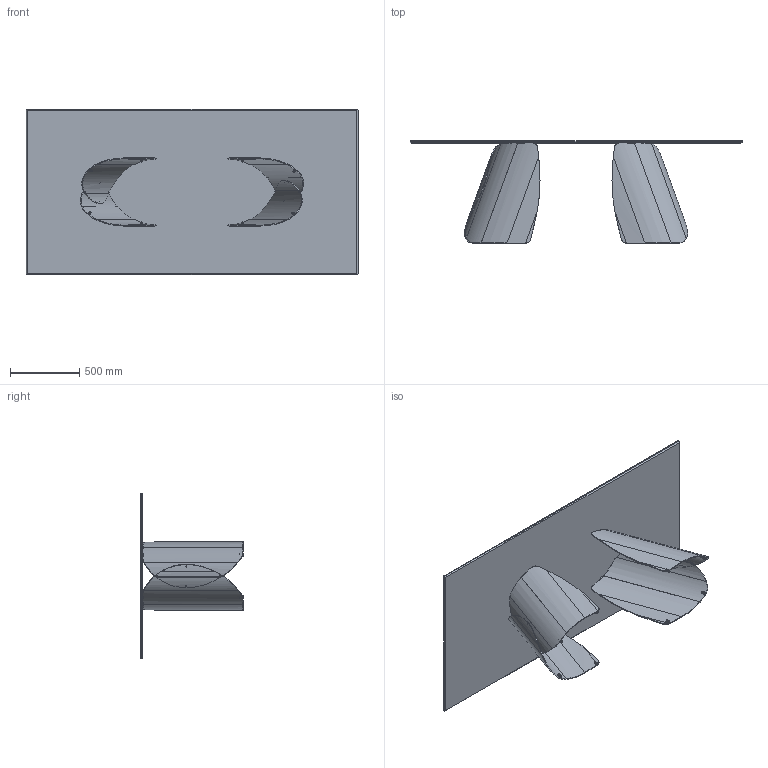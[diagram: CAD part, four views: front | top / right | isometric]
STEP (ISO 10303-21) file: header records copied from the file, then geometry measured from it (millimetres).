
FILE_DESCRIPTION (( 'STEP AP203' ), '1' );
FILE_NAME ('PA22C_Perla 239x119_Ceramic Rectangular.STEP', '2024-07-31T12:39:08', ( '' ), ( '' ), 'SwSTEP 2.0', 'SolidWorks 2022', '' );
FILE_SCHEMA (( 'CONFIG_CONTROL_DESIGN' ));
Length unit declared in the file: millimetre
Products named in the file (9): PER000000-00-PERLA BASE GREZZA; profilo U 9x7 bombato_L = 60mm; PER000000_03-00-PERLA BUSSOLA PER PIEDE; PA22C_Perla 239x119_Ceramic Rectangular; PER000000_02-00-PERLA LAMIERA INTERNA; COLLO BASE PERLA PER000000 CON FERRAMENTA; PER000000_01-00-PERLA LAMIERA ESTERNA; PIEDINO D.15 x H.8_filetto M6x11; K2XCMXX-00-Piani Rettangolari in ceramica_2390 x 1190
Assembly tree (16 placements, depth 4):
  PA22C_Perla 239x119_Ceramic Rectangular
    COLLO BASE PERLA PER000000 CON FERRAMENTA  x2
      PER000000-00-PERLA BASE GREZZA
        PER000000_01-00-PERLA LAMIERA ESTERNA
        PER000000_02-00-PERLA LAMIERA INTERNA
        PER000000_03-00-PERLA BUSSOLA PER PIEDE  x4
      PIEDINO D.15 x H.8_filetto M6x11
      profilo U 9x7 bombato_L = 60mm
    K2XCMXX-00-Piani Rettangolari in ceramica_2390 x 1190
Bounding box: 2390 x 737.5 x 1190 mm (x, y, z)
Volume: 55255926 mm3; surface area: 14854901.9 mm2
Topology: 34 solids, 34 shells, 490 faces, 1090 edges, 668 vertices
Faces by surface type: cylinder 164, bspline 130, plane 116, cone 48, torus 32
Entity records: 12664 total; most frequent: CARTESIAN_POINT 8269, ORIENTED_EDGE 774, DIRECTION 498, EDGE_CURVE 387, VERTEX_POINT 241, AXIS2_PLACEMENT_3D 180, EDGE_LOOP 174, FACE_OUTER_BOUND 164
